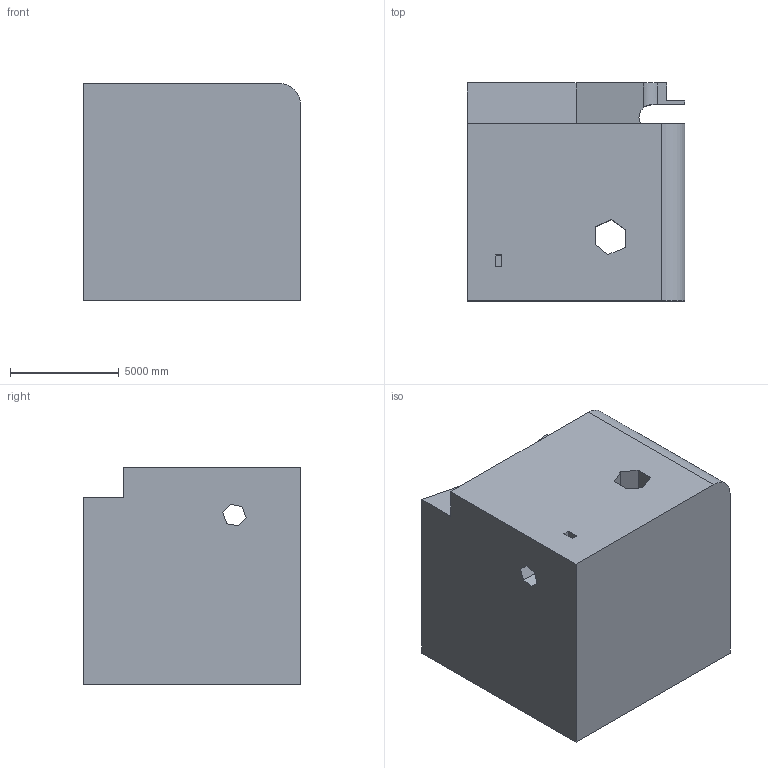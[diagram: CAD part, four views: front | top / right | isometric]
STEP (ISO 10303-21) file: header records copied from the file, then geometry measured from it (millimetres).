
FILE_DESCRIPTION (( 'STEP AP203' ), '1' );
FILE_NAME ('187.STEP', '2022-09-06T12:41:41', ( 'user' ), ( '' ), 'SwSTEP 2.0', 'SolidWorks 2021', '' );
FILE_SCHEMA (( 'CONFIG_CONTROL_DESIGN' ));
Length unit declared in the file: centimetre
Products named in the file (1): 187
Bounding box: 10000 x 10000 x 10000 mm (x, y, z)
Volume: 910411581721.2 mm3; surface area: 702319317.7 mm2
Topology: 1 solids, 1 shells, 48 faces, 138 edges, 92 vertices
Faces by surface type: plane 44, cylinder 4
Entity records: 1685 total; most frequent: CARTESIAN_POINT 334, ORIENTED_EDGE 276, DIRECTION 240, EDGE_CURVE 138, LINE 128, VECTOR 128, VERTEX_POINT 92, AXIS2_PLACEMENT_3D 56
